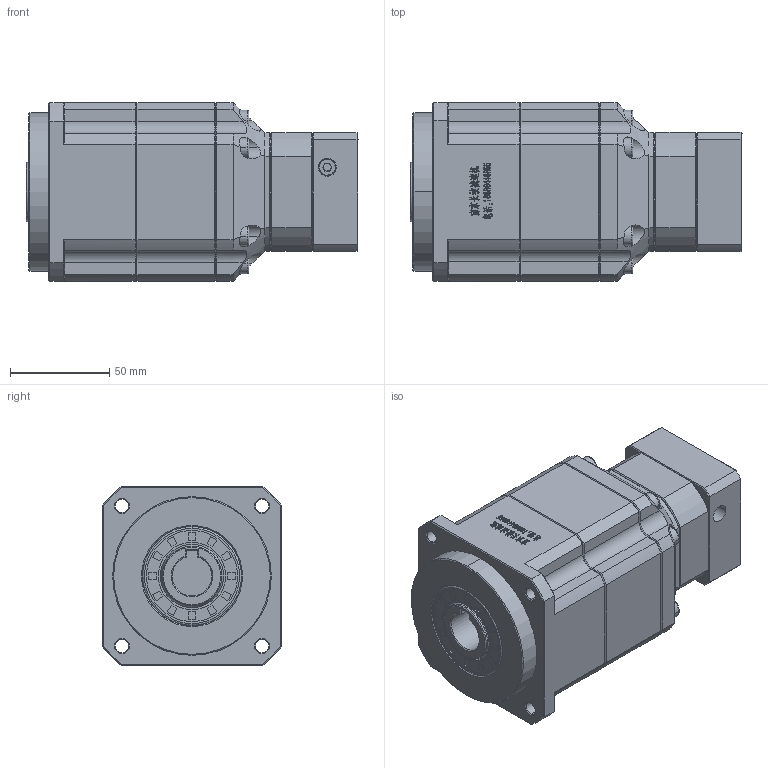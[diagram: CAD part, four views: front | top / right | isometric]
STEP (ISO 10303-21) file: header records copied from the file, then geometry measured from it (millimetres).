
FILE_DESCRIPTION (( 'STEP AP214' ), '1' );
FILE_NAME ('ZPB090-K20-L3-P1-14-50-70-M4.step', '2024-06-07T18:27:36', ( 'Windows 蚚誧' ), ( 'Organization' ), 'SwSTEP 2.0', 'SolidWorks 2016', '' );
FILE_SCHEMA (( 'AUTOMOTIVE_DESIGN' ));
Length unit declared in the file: millimetre
Products named in the file (1): ZPB090-K20-L3-P1-14-50-70-M4
Bounding box: 167.5 x 90 x 90 mm (x, y, z)
Surface area: 79426.4 mm2 (no closed solid volume)
Topology: 0 solids, 34 shells, 2120 faces, 5564 edges, 3510 vertices
Faces by surface type: plane 1114, bspline 398, cone 310, cylinder 298
Entity records: 97479 total; most frequent: CARTESIAN_POINT 43653, ORIENTED_EDGE 11090, DIRECTION 8837, EDGE_CURVE 5564, VECTOR 3573, LINE 3573, VERTEX_POINT 3510, AXIS2_PLACEMENT_3D 2632
